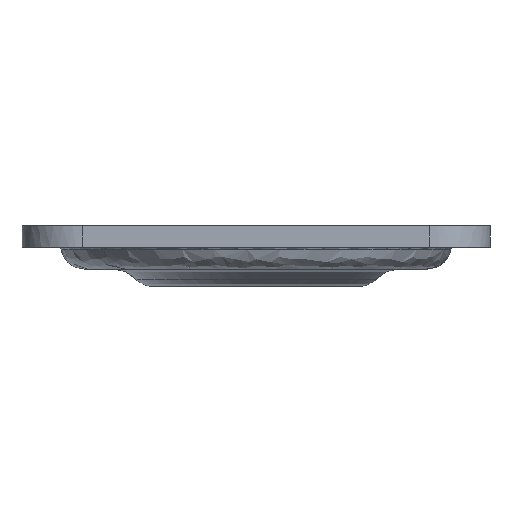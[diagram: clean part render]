
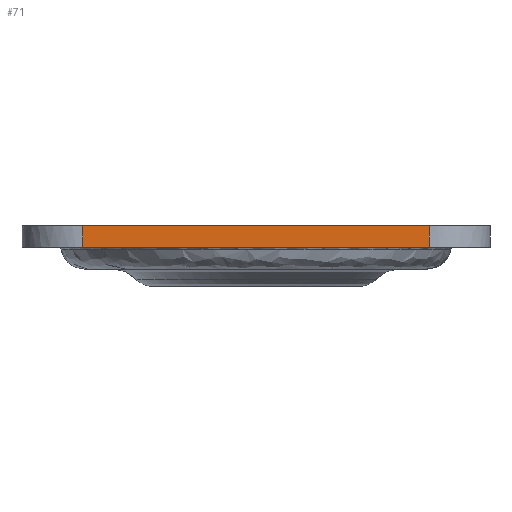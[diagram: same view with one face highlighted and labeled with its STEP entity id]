
A CAD part, left-side view. The second image highlights one B-rep face of the part: STEP entity #71.
In plain terms, the highlighted planar face has unit normal (-1, 0, 0).
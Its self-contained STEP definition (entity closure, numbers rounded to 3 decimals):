
#71 = ADVANCED_FACE ( 'NONE', ( #301 ), #3963, .T. ) ;
#139 = EDGE_LOOP ( 'NONE', ( #4607, #4608, #4609, #4610 ) ) ;
#301 = FACE_OUTER_BOUND ( 'NONE', #139, .T. ) ;
#321 = LINE ( 'NONE', #4600, #324 ) ;
#324 = VECTOR ( 'NONE', #4601, 1000. ) ;
#334 = LINE ( 'NONE', #4647, #335 ) ;
#335 = VECTOR ( 'NONE', #4648, 1000. ) ;
#340 = LINE ( 'NONE', #4681, #341 ) ;
#341 = VECTOR ( 'NONE', #4682, 1000. ) ;
#342 = LINE ( 'NONE', #4683, #343 ) ;
#343 = VECTOR ( 'NONE', #4684, 1000. ) ;
#362 = VERTEX_POINT ( 'NONE', #4392 ) ;
#363 = VERTEX_POINT ( 'NONE', #4334 ) ;
#369 = VERTEX_POINT ( 'NONE', #4389 ) ;
#370 = VERTEX_POINT ( 'NONE', #4396 ) ;
#992 = EDGE_CURVE ( 'NONE', #369, #370, #321, .T. ) ;
#1001 = EDGE_CURVE ( 'NONE', #363, #362, #334, .T. ) ;
#1008 = EDGE_CURVE ( 'NONE', #363, #370, #340, .T. ) ;
#1009 = EDGE_CURVE ( 'NONE', #362, #369, #342, .T. ) ;
#3817 = AXIS2_PLACEMENT_3D ( 'NONE', #3931, #3965, #3966 ) ;
#3931 = CARTESIAN_POINT ( 'NONE',  ( -54., -40., 0. ) ) ;
#3963 = PLANE ( 'NONE',  #3817 ) ;
#3965 = DIRECTION ( 'NONE',  ( -1., 0., 0. ) ) ;
#3966 = DIRECTION ( 'NONE',  ( 0., 1., 0. ) ) ;
#4334 = CARTESIAN_POINT ( 'NONE',  ( -54., -40., 0. ) ) ;
#4389 = CARTESIAN_POINT ( 'NONE',  ( -54., 40., -5. ) ) ;
#4392 = CARTESIAN_POINT ( 'NONE',  ( -54., 40., 0. ) ) ;
#4396 = CARTESIAN_POINT ( 'NONE',  ( -54., -40., -5. ) ) ;
#4600 = CARTESIAN_POINT ( 'NONE',  ( -54., -40., -5. ) ) ;
#4601 = DIRECTION ( 'NONE',  ( 0., -1., 0. ) ) ;
#4607 = ORIENTED_EDGE ( 'NONE', *, *, #1001, .T. ) ;
#4608 = ORIENTED_EDGE ( 'NONE', *, *, #1009, .T. ) ;
#4609 = ORIENTED_EDGE ( 'NONE', *, *, #992, .T. ) ;
#4610 = ORIENTED_EDGE ( 'NONE', *, *, #1008, .F. ) ;
#4647 = CARTESIAN_POINT ( 'NONE',  ( -54., -40., 0. ) ) ;
#4648 = DIRECTION ( 'NONE',  ( 0., 1., 0. ) ) ;
#4681 = CARTESIAN_POINT ( 'NONE',  ( -54., -40., -2.5 ) ) ;
#4682 = DIRECTION ( 'NONE',  ( 0., 0., -1. ) ) ;
#4683 = CARTESIAN_POINT ( 'NONE',  ( -54., 40., -2.5 ) ) ;
#4684 = DIRECTION ( 'NONE',  ( 0., 0., -1. ) ) ;
